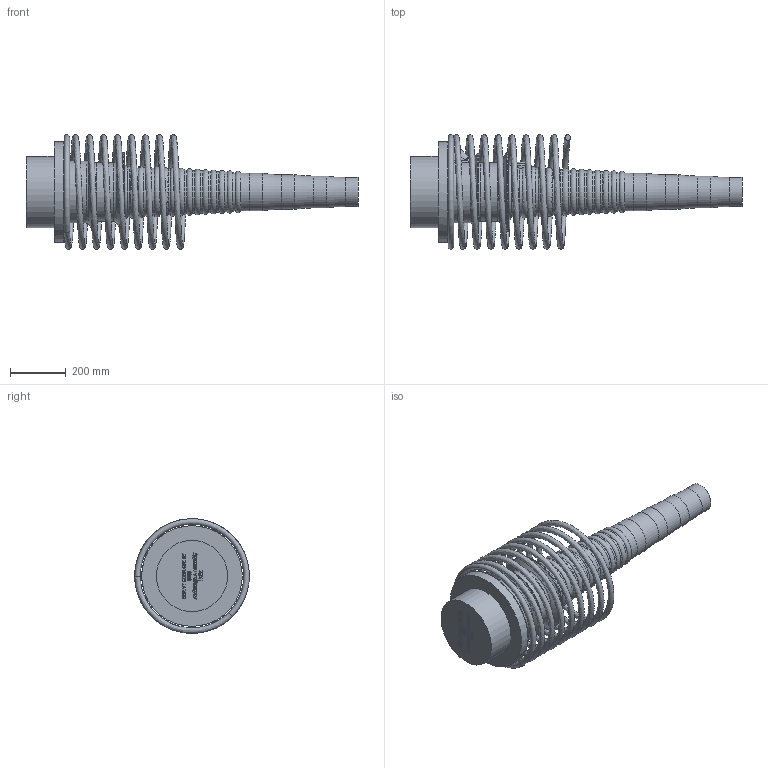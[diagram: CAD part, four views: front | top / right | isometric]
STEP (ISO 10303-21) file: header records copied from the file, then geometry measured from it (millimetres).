
FILE_DESCRIPTION(/* description */ (''),/* implementation_level */ '2;1');
FILE_NAME(/* name */ 'BBR VT CONA CMI BT 3106_Anchorage A Assembly_CS-43,35_Helix.stp',/* time_stamp */ '2025-04-29T08:25:57+02:00',/* author */ ('tk'),/* organization */ (''),/* preprocessor_version */ 'ST-DEVELOPER v20',/* originating_system */ 'Autodesk Inventor 2024',/* authorisation */ '');
FILE_SCHEMA (('AUTOMOTIVE_DESIGN { 1 0 10303 214 3 1 1 }'));
Length unit declared in the file: millimetre
Products named in the file (1): BBR VT CONA CMI BT 3106_Anchorage A Assembly_CS-43,35_Helix
Bounding box: 1188.17 x 410 x 409.99 mm (x, y, z)
Volume: 34600847.7 mm3; surface area: 1629137.9 mm2
Topology: 2 solids, 2 shells, 802 faces, 2122 edges, 1382 vertices
Faces by surface type: plane 374, bspline 324, torus 65, cylinder 20, cone 17, sphere 2
Full cylindrical faces by diameter (mm): 34 x1, 57 x1, 104 x1, 114 x1, 124 x1, 134 x1, 208 x1, 255 x1, 279 x1, 283 x1, 360 x1
Entity records: 32688 total; most frequent: CARTESIAN_POINT 14059, ORIENTED_EDGE 4232, DIRECTION 2622, EDGE_CURVE 2116, VERTEX_POINT 1382, LINE 1244, VECTOR 1244, EDGE_LOOP 868
